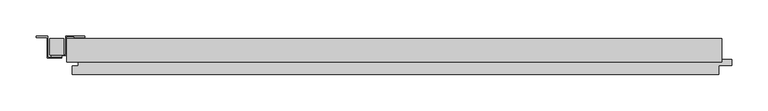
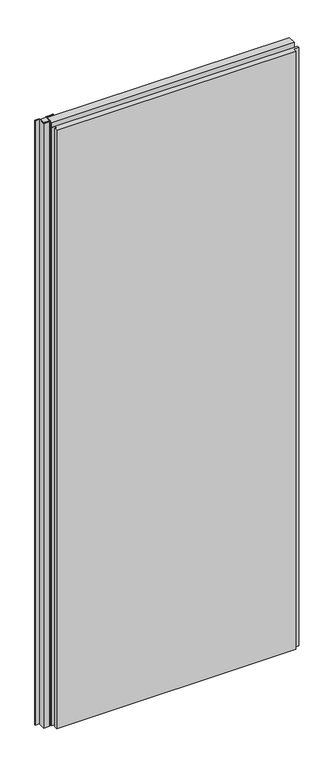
"""IFC4 building model written with IfcOpenShell, lengths in millimetres: plate geometry, Trimo_Qbiss Screen_Normal Panel-VERTICAL : HR - FB-F."""

from ifc_helpers import new_model, si_unit, frame, origin, place, context, project, spatial, polyline, outline, extrude, source, transform, mapped, element, save


def plate_93e03bb0(model_context):
    return source(origin(), model_context, "Body", "SweptSolid", [
        extrude(outline(polyline([(-436.8, 126.0), (-436.8, 103.2), (-455.8, 103.2), (-455.8, 126.0), (-436.8, 126.0)])), frame((0.0, 0.0, 12.5), z_axis=(0.0, 0.0, 1.0), x_axis=(1.0, 0.0, 0.0)), (0.0, 0.0, 1.0), 2400.0),
        extrude(outline(polyline([(-407.0, 127.6), (-422.0, 127.6), (-422.0, 128.4), (-407.8, 128.4), (-407.8, 129.2), (-433.0, 129.2), (-433.0, 102.4), (-453.2, 102.4), (-453.2, 101.6), (-439.0, 101.6), (-439.0, 100.8), (-454.0, 100.8), (-454.0, 103.2), (-433.8, 103.2), (-433.8, 130.0), (-407.0, 130.0), (-407.0, 127.6)])), frame((0.0, 0.0, 12.5), z_axis=(0.0, 0.0, 1.0), x_axis=(1.0, 0.0, 0.0)), (0.0, 0.0, 1.0), 2400.0),
        extrude(outline(polyline([(-439.0, 100.0), (-439.0, 99.2), (-459.6, 99.2), (-459.6, 129.2), (-474.2, 129.2), (-474.2, 128.4), (-460.0, 128.4), (-460.0, 127.6), (-475.0, 127.6), (-475.0, 130.0), (-458.8, 130.0), (-458.8, 100.0), (-439.0, 100.0)])), frame((0.0, 0.0, 12.5), z_axis=(0.0, 0.0, 1.0), x_axis=(1.0, 0.0, 0.0)), (0.0, 0.0, 1.0), 2400.0),
        extrude(outline(polyline([(-432.0, 93.9), (-432.0, 126.0), (477.0, 126.0), (477.0, 93.9), (-432.0, 93.9)])), frame((0.0, 0.0, 2390.5), z_axis=(0.0, 0.0, 1.0), x_axis=(1.0, 0.0, 0.0)), (0.0, 0.0, 1.0), 19.0),
        extrude(outline(polyline([(473.0, 97.0), (491.5, 97.0), (491.5, 89.0), (473.0, 89.0), (473.0, 76.0), (-425.0, 76.0), (-425.0, 88.0), (-416.5, 88.0), (-416.5, 98.0), (-432.0, 98.0), (-432.0, 126.0), (473.0, 126.0), (473.0, 97.0)])), frame((0.0, 0.0, 12.5), z_axis=(0.0, 0.0, 1.0), x_axis=(1.0, 0.0, 0.0)), (0.0, 0.0, 1.0), 2375.0),
    ])


if __name__ == "__main__":
    model = new_model("IFC4")
    model_context = context("Model", 3, world=origin())
    ifc_project = project(units=[si_unit("LENGTHUNIT", "METRE", prefix="MILLI")], contexts=[model_context])
    site = spatial("IfcSite", under=ifc_project)
    building = spatial("IfcBuilding", under=site)
    placement = place(None, origin())
    plate_shape = plate_93e03bb0(model_context)
    element("IfcPlate", 1, ObjectType="Trimo_Qbiss Screen_Normal Panel-VERTICAL : HR - FB-F", at=placement, inside=building, context=model_context, shape_type="MappedRepresentation", body=[
        mapped(plate_shape, transform((0.0, 0.0, 0.0), x_axis=(1.0, 0.0, 0.0), y_axis=(0.0, 1.0, 0.0), z_axis=(0.0, 0.0, 1.0))),
    ])
    save(model, "model.ifc")
